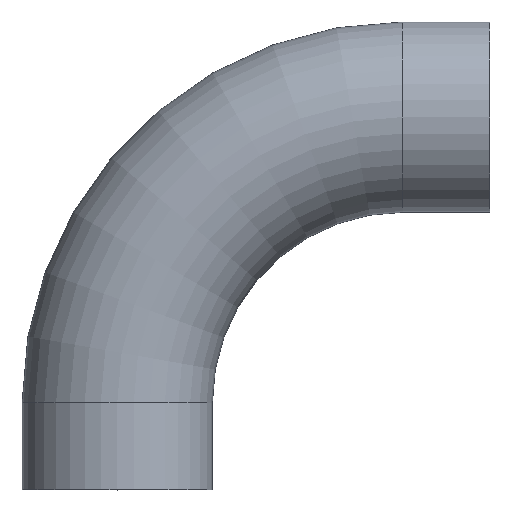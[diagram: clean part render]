
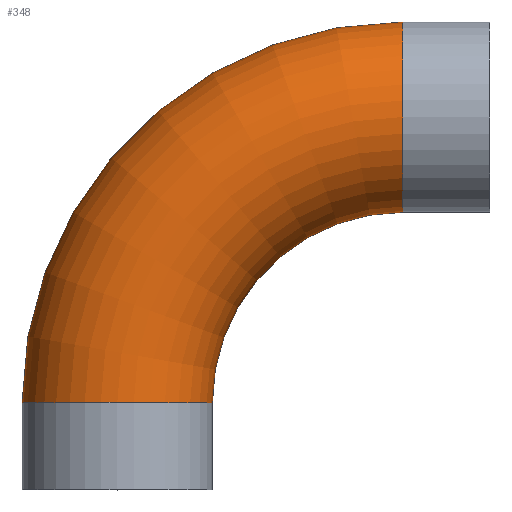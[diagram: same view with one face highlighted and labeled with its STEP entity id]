
A CAD part, top view. The second image highlights one B-rep face of the part: STEP entity #348.
In plain terms, the highlighted toroidal (fillet/blend) face has major radius 57.15 mm and minor radius 19.05 mm.
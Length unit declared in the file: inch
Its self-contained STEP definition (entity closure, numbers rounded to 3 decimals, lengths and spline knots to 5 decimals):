
#8 = CARTESIAN_POINT ( 'NONE',  ( 2.25, -2.25, 0. ) ) ;
#12 = DIRECTION ( 'NONE',  ( 0., 0., -1. ) ) ;
#22 = ORIENTED_EDGE ( 'NONE', *, *, #284, .T. ) ;
#26 = VERTEX_POINT ( 'NONE', #448 ) ;
#56 = ORIENTED_EDGE ( 'NONE', *, *, #339, .F. ) ;
#66 = CARTESIAN_POINT ( 'NONE',  ( -0.75, -2.25, 0. ) ) ;
#68 = VERTEX_POINT ( 'NONE', #199 ) ;
#121 = DIRECTION ( 'NONE',  ( -1., 0., 0. ) ) ;
#128 = CIRCLE ( 'NONE', #242, 3. ) ;
#133 = CARTESIAN_POINT ( 'NONE',  ( 2.25, -2.25, 0. ) ) ;
#147 = AXIS2_PLACEMENT_3D ( 'NONE', #179, #176, #172 ) ;
#148 = FACE_OUTER_BOUND ( 'NONE', #453, .T. ) ;
#156 = CARTESIAN_POINT ( 'NONE',  ( 2.25, -2.25, 0. ) ) ;
#159 = VERTEX_POINT ( 'NONE', #66 ) ;
#160 = ORIENTED_EDGE ( 'NONE', *, *, #439, .T. ) ;
#172 = DIRECTION ( 'NONE',  ( 0., -1., 0. ) ) ;
#174 = AXIS2_PLACEMENT_3D ( 'NONE', #133, #251, #433 ) ;
#176 = DIRECTION ( 'NONE',  ( -1., 0., 0. ) ) ;
#177 = CIRCLE ( 'NONE', #197, 1.5 ) ;
#178 = AXIS2_PLACEMENT_3D ( 'NONE', #320, #319, #393 ) ;
#179 = CARTESIAN_POINT ( 'NONE',  ( 2.25, 0., 0. ) ) ;
#197 = AXIS2_PLACEMENT_3D ( 'NONE', #8, #12, #440 ) ;
#199 = CARTESIAN_POINT ( 'NONE',  ( 2.25, 0.75, 0. ) ) ;
#225 = EDGE_CURVE ( 'NONE', #159, #68, #128, .T. ) ;
#242 = AXIS2_PLACEMENT_3D ( 'NONE', #156, #271, #121 ) ;
#251 = DIRECTION ( 'NONE',  ( 0., 0., -1. ) ) ;
#271 = DIRECTION ( 'NONE',  ( 0., 0., -1. ) ) ;
#279 = TOROIDAL_SURFACE ( 'NONE', #174, 2.25, 0.75 ) ;
#284 = EDGE_CURVE ( 'NONE', #340, #26, #177, .T. ) ;
#319 = DIRECTION ( 'NONE',  ( 0., -1., 0. ) ) ;
#320 = CARTESIAN_POINT ( 'NONE',  ( 0., -2.25, 0. ) ) ;
#336 = ORIENTED_EDGE ( 'NONE', *, *, #225, .F. ) ;
#339 = EDGE_CURVE ( 'NONE', #340, #159, #404, .T. ) ;
#340 = VERTEX_POINT ( 'NONE', #438 ) ;
#348 = ADVANCED_FACE ( 'NONE', ( #148 ), #279, .T. ) ;
#372 = CIRCLE ( 'NONE', #147, 0.75 ) ;
#393 = DIRECTION ( 'NONE',  ( 1., 0., 0. ) ) ;
#404 = CIRCLE ( 'NONE', #178, 0.75 ) ;
#433 = DIRECTION ( 'NONE',  ( -1., 0., 0. ) ) ;
#438 = CARTESIAN_POINT ( 'NONE',  ( 0.75, -2.25, 0. ) ) ;
#439 = EDGE_CURVE ( 'NONE', #26, #68, #372, .T. ) ;
#440 = DIRECTION ( 'NONE',  ( -1., 0., 0. ) ) ;
#448 = CARTESIAN_POINT ( 'NONE',  ( 2.25, -0.75, 0. ) ) ;
#453 = EDGE_LOOP ( 'NONE', ( #336, #56, #22, #160 ) ) ;
